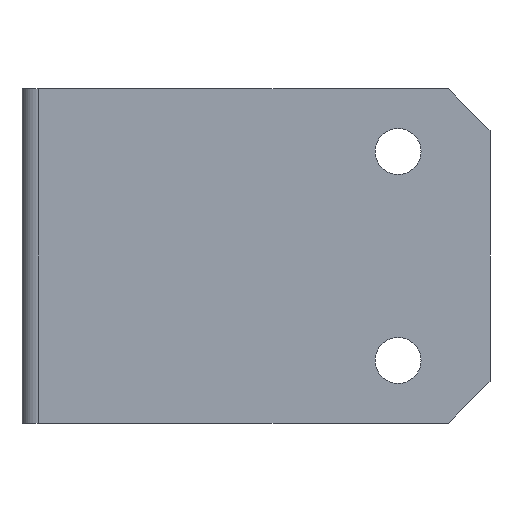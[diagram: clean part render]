
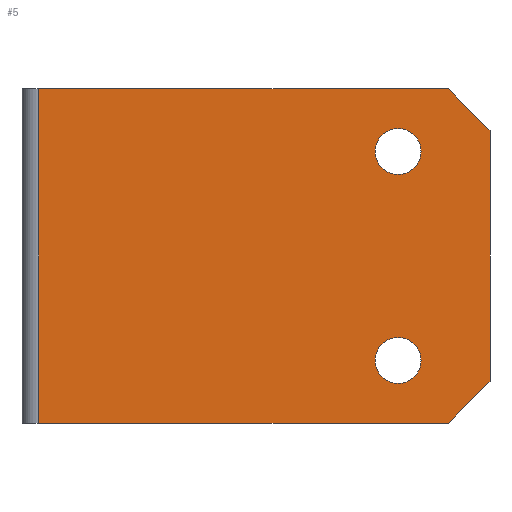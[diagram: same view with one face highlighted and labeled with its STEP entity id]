
A CAD part, front view. The second image highlights one B-rep face of the part: STEP entity #5.
In plain terms, the highlighted planar face has unit normal (0, -1, 0).
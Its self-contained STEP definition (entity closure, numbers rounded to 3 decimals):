
#5 = ADVANCED_FACE ( 'NONE', ( #373, #831, #504 ), #319, .F. ) ;
#6 = VECTOR ( 'NONE', #260, 1000. ) ;
#26 = CARTESIAN_POINT ( 'NONE',  ( 44., -1., -9.75 ) ) ;
#31 = EDGE_CURVE ( 'NONE', #730, #549, #315, .T. ) ;
#51 = ORIENTED_EDGE ( 'NONE', *, *, #447, .F. ) ;
#54 = ORIENTED_EDGE ( 'NONE', *, *, #379, .T. ) ;
#58 = CARTESIAN_POINT ( 'NONE',  ( 0., -1., 20. ) ) ;
#96 = DIRECTION ( 'NONE',  ( 0., 0., 1. ) ) ;
#103 = VERTEX_POINT ( 'NONE', #246 ) ;
#127 = AXIS2_PLACEMENT_3D ( 'NONE', #644, #698, #446 ) ;
#130 = CARTESIAN_POINT ( 'NONE',  ( 55., -1., -15. ) ) ;
#149 = EDGE_CURVE ( 'NONE', #730, #103, #766, .T. ) ;
#166 = ORIENTED_EDGE ( 'NONE', *, *, #687, .T. ) ;
#169 = AXIS2_PLACEMENT_3D ( 'NONE', #560, #227, #96 ) ;
#173 = LINE ( 'NONE', #436, #308 ) ;
#174 = ORIENTED_EDGE ( 'NONE', *, *, #178, .T. ) ;
#178 = EDGE_CURVE ( 'NONE', #529, #549, #185, .T. ) ;
#180 = CARTESIAN_POINT ( 'NONE',  ( 1., -1., 20. ) ) ;
#185 = LINE ( 'NONE', #448, #581 ) ;
#191 = DIRECTION ( 'NONE',  ( 0., 1., 0. ) ) ;
#194 = VECTOR ( 'NONE', #494, 1000. ) ;
#227 = DIRECTION ( 'NONE',  ( 0., 1., 0. ) ) ;
#237 = CARTESIAN_POINT ( 'NONE',  ( 55., -1., 15. ) ) ;
#243 = ORIENTED_EDGE ( 'NONE', *, *, #328, .T. ) ;
#246 = CARTESIAN_POINT ( 'NONE',  ( 1., -1., -20. ) ) ;
#260 = DIRECTION ( 'NONE',  ( 1., 0., 0. ) ) ;
#285 = CARTESIAN_POINT ( 'NONE',  ( 44., -1., 15.25 ) ) ;
#302 = CARTESIAN_POINT ( 'NONE',  ( 0., -1., -20. ) ) ;
#306 = CARTESIAN_POINT ( 'NONE',  ( 44., -1., 9.75 ) ) ;
#307 = EDGE_LOOP ( 'NONE', ( #54, #335, #51, #174, #437, #843 ) ) ;
#308 = VECTOR ( 'NONE', #695, 1000. ) ;
#315 = LINE ( 'NONE', #841, #6 ) ;
#319 = PLANE ( 'NONE',  #556 ) ;
#328 = EDGE_CURVE ( 'NONE', #424, #825, #771, .T. ) ;
#335 = ORIENTED_EDGE ( 'NONE', *, *, #682, .T. ) ;
#356 = LINE ( 'NONE', #302, #194 ) ;
#373 = FACE_BOUND ( 'NONE', #513, .T. ) ;
#379 = EDGE_CURVE ( 'NONE', #103, #415, #356, .T. ) ;
#384 = EDGE_CURVE ( 'NONE', #622, #838, #715, .T. ) ;
#405 = CARTESIAN_POINT ( 'NONE',  ( 1., -1., 20. ) ) ;
#415 = VERTEX_POINT ( 'NONE', #563 ) ;
#424 = VERTEX_POINT ( 'NONE', #26 ) ;
#436 = CARTESIAN_POINT ( 'NONE',  ( 55., -1., 20. ) ) ;
#437 = ORIENTED_EDGE ( 'NONE', *, *, #31, .F. ) ;
#446 = DIRECTION ( 'NONE',  ( 0., 0., 1. ) ) ;
#447 = EDGE_CURVE ( 'NONE', #529, #635, #173, .T. ) ;
#448 = CARTESIAN_POINT ( 'NONE',  ( 55., -1., 15. ) ) ;
#488 = CIRCLE ( 'NONE', #664, 2.75 ) ;
#494 = DIRECTION ( 'NONE',  ( 1., 0., 0. ) ) ;
#504 = FACE_OUTER_BOUND ( 'NONE', #307, .T. ) ;
#511 = DIRECTION ( 'NONE',  ( 0., 0., -1. ) ) ;
#513 = EDGE_LOOP ( 'NONE', ( #166, #693 ) ) ;
#514 = AXIS2_PLACEMENT_3D ( 'NONE', #555, #819, #629 ) ;
#527 = DIRECTION ( 'NONE',  ( 0.707, 0., 0.707 ) ) ;
#529 = VERTEX_POINT ( 'NONE', #237 ) ;
#535 = DIRECTION ( 'NONE',  ( 0., 1., 0. ) ) ;
#549 = VERTEX_POINT ( 'NONE', #709 ) ;
#553 = EDGE_CURVE ( 'NONE', #825, #424, #818, .T. ) ;
#555 = CARTESIAN_POINT ( 'NONE',  ( 44., -1., -12.5 ) ) ;
#556 = AXIS2_PLACEMENT_3D ( 'NONE', #58, #191, #776 ) ;
#560 = CARTESIAN_POINT ( 'NONE',  ( 44., -1., 12.5 ) ) ;
#563 = CARTESIAN_POINT ( 'NONE',  ( 50., -1., -20. ) ) ;
#581 = VECTOR ( 'NONE', #707, 1000. ) ;
#582 = EDGE_LOOP ( 'NONE', ( #243, #600 ) ) ;
#600 = ORIENTED_EDGE ( 'NONE', *, *, #553, .T. ) ;
#602 = CARTESIAN_POINT ( 'NONE',  ( 50., -1., -20. ) ) ;
#622 = VERTEX_POINT ( 'NONE', #306 ) ;
#629 = DIRECTION ( 'NONE',  ( 0., 0., 1. ) ) ;
#635 = VERTEX_POINT ( 'NONE', #130 ) ;
#644 = CARTESIAN_POINT ( 'NONE',  ( 44., -1., -12.5 ) ) ;
#664 = AXIS2_PLACEMENT_3D ( 'NONE', #737, #535, #719 ) ;
#682 = EDGE_CURVE ( 'NONE', #415, #635, #782, .T. ) ;
#687 = EDGE_CURVE ( 'NONE', #838, #622, #488, .T. ) ;
#693 = ORIENTED_EDGE ( 'NONE', *, *, #384, .T. ) ;
#695 = DIRECTION ( 'NONE',  ( 0., 0., -1. ) ) ;
#698 = DIRECTION ( 'NONE',  ( 0., 1., 0. ) ) ;
#703 = VECTOR ( 'NONE', #511, 1000. ) ;
#704 = VECTOR ( 'NONE', #527, 1000. ) ;
#707 = DIRECTION ( 'NONE',  ( -0.707, 0., 0.707 ) ) ;
#709 = CARTESIAN_POINT ( 'NONE',  ( 50., -1., 20. ) ) ;
#715 = CIRCLE ( 'NONE', #169, 2.75 ) ;
#719 = DIRECTION ( 'NONE',  ( 0., 0., 1. ) ) ;
#730 = VERTEX_POINT ( 'NONE', #405 ) ;
#737 = CARTESIAN_POINT ( 'NONE',  ( 44., -1., 12.5 ) ) ;
#766 = LINE ( 'NONE', #180, #703 ) ;
#771 = CIRCLE ( 'NONE', #514, 2.75 ) ;
#776 = DIRECTION ( 'NONE',  ( 0., 0., 1. ) ) ;
#782 = LINE ( 'NONE', #602, #704 ) ;
#813 = CARTESIAN_POINT ( 'NONE',  ( 44., -1., -15.25 ) ) ;
#818 = CIRCLE ( 'NONE', #127, 2.75 ) ;
#819 = DIRECTION ( 'NONE',  ( 0., 1., 0. ) ) ;
#825 = VERTEX_POINT ( 'NONE', #813 ) ;
#831 = FACE_BOUND ( 'NONE', #582, .T. ) ;
#838 = VERTEX_POINT ( 'NONE', #285 ) ;
#841 = CARTESIAN_POINT ( 'NONE',  ( 0., -1., 20. ) ) ;
#843 = ORIENTED_EDGE ( 'NONE', *, *, #149, .T. ) ;
